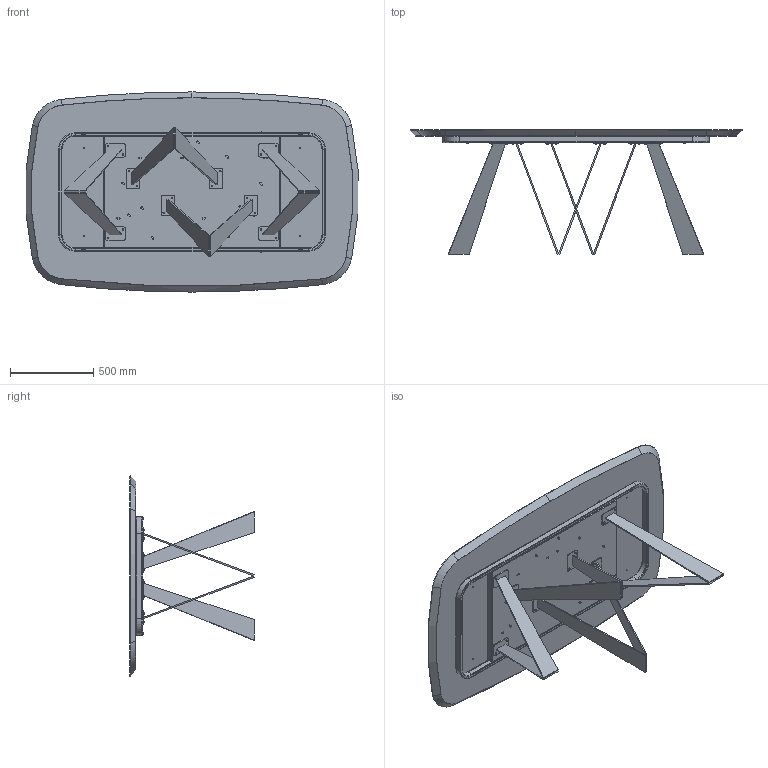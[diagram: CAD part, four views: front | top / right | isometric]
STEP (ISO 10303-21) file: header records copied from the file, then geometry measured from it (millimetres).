
FILE_DESCRIPTION (( 'STEP AP203' ), '1' );
FILE_NAME ('NO41W_Noa_200x120x75h_Wood Shaped.STEP', '2024-08-07T14:27:01', ( '' ), ( '' ), 'SwSTEP 2.0', 'SolidWorks 2022', '' );
FILE_SCHEMA (( 'CONFIG_CONTROL_DESIGN' ));
Length unit declared in the file: millimetre
Products named in the file (15): NOA000001PTRS-00-Piastra rettangoalre con fori; TTAV06_01-01-STRUTTURA X TAVOLI PLAI ONDA NOA 240_Default<A macchina>; M8xXXmm_M8x55mm; rondella M8_8X16; TTAV06-01-TELAIO X TAVOLI PLAI ONDA NOA 240cm_TTAV06; 434070-00-PIEDINO TPV GOMMA NERO D. 30x8max18; NOA000000-00-NOA BASE GREZZA; NOA000001GMB-00-Piastra Principale gamba NOA_Piatto DX; NO41W_Noa_200x120x75h_Wood Shaped; Assieme NOA var 3_noa 200-240; NOA000001GMB-00-Piastra Principale gamba NOA_Piatto SX; TTAV06_02-01-VASSOIO TAVOLI PLAI ONDA NOA 240; W4XCMXX-00-Piani Sagomati legno_ 2000 x 1200; MAPPA; M8xXXmm_M8x16mm
Assembly tree (55 placements, depth 4):
  NO41W_Noa_200x120x75h_Wood Shaped
    W4XCMXX-00-Piani Sagomati legno_ 2000 x 1200
    Assieme NOA var 3_noa 200-240
      NOA000000-00-NOA BASE GREZZA  x4
        NOA000001GMB-00-Piastra Principale gamba NOA_Piatto SX
        NOA000001GMB-00-Piastra Principale gamba NOA_Piatto DX
        NOA000001PTRS-00-Piastra rettangoalre con fori
      TTAV06-01-TELAIO X TAVOLI PLAI ONDA NOA 240cm_TTAV06
        TTAV06_02-01-VASSOIO TAVOLI PLAI ONDA NOA 240
        TTAV06_01-01-STRUTTURA X TAVOLI PLAI ONDA NOA 240_Default<A macchina>
    M8xXXmm_M8x55mm  x4
    rondella M8_8X16  x20
    M8xXXmm_M8x16mm  x16
    434070-00-PIEDINO TPV GOMMA NERO D. 30x8max18  x2
  MAPPA
Bounding box: 1990.53 x 747.8 x 1200 mm (x, y, z)
Volume: 90623176.1 mm3; surface area: 8618436 mm2
Topology: 70 solids, 70 shells, 1691 faces, 3872 edges, 2287 vertices
Faces by surface type: plane 632, cylinder 433, cone 337, torus 289
Entity records: 23268 total; most frequent: DIRECTION 3844, CARTESIAN_POINT 3583, ORIENTED_EDGE 3336, EDGE_CURVE 1668, AXIS2_PLACEMENT_3D 1468, VERTEX_POINT 1035, VECTOR 908, LINE 908
